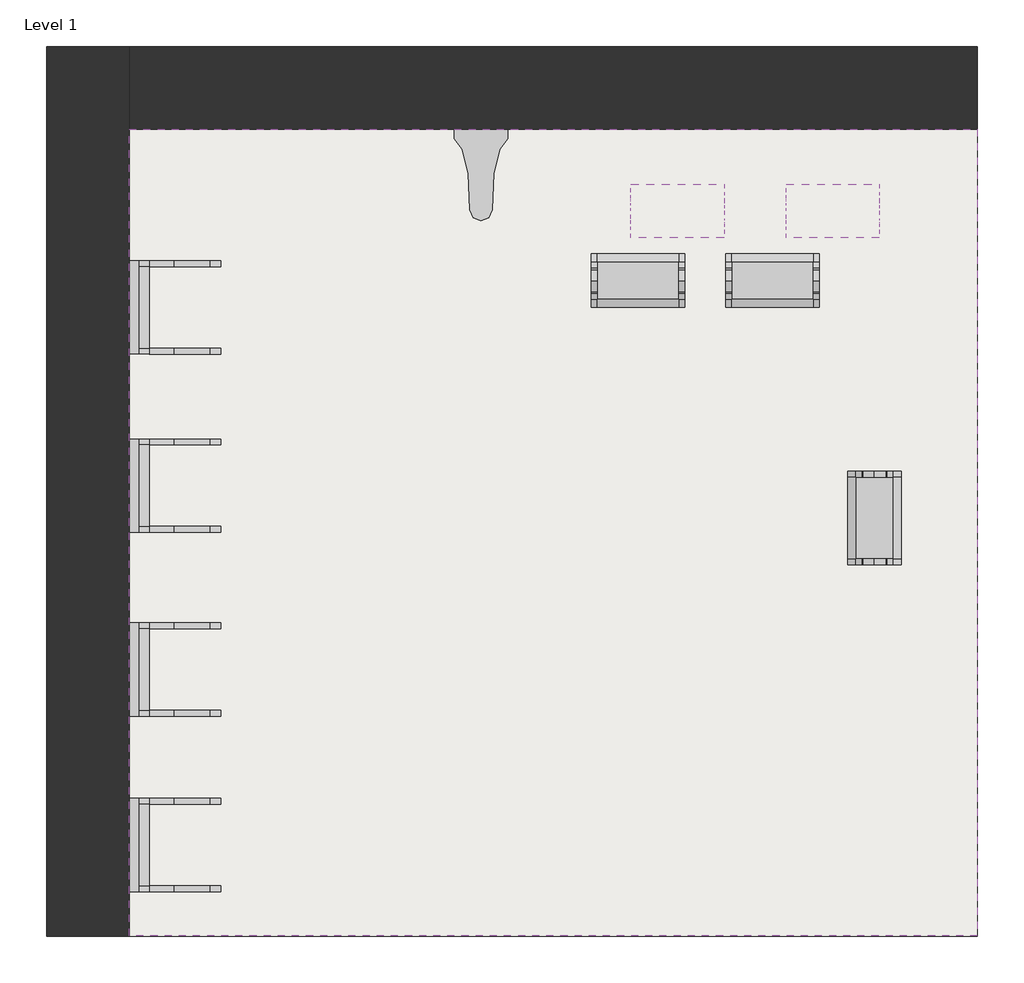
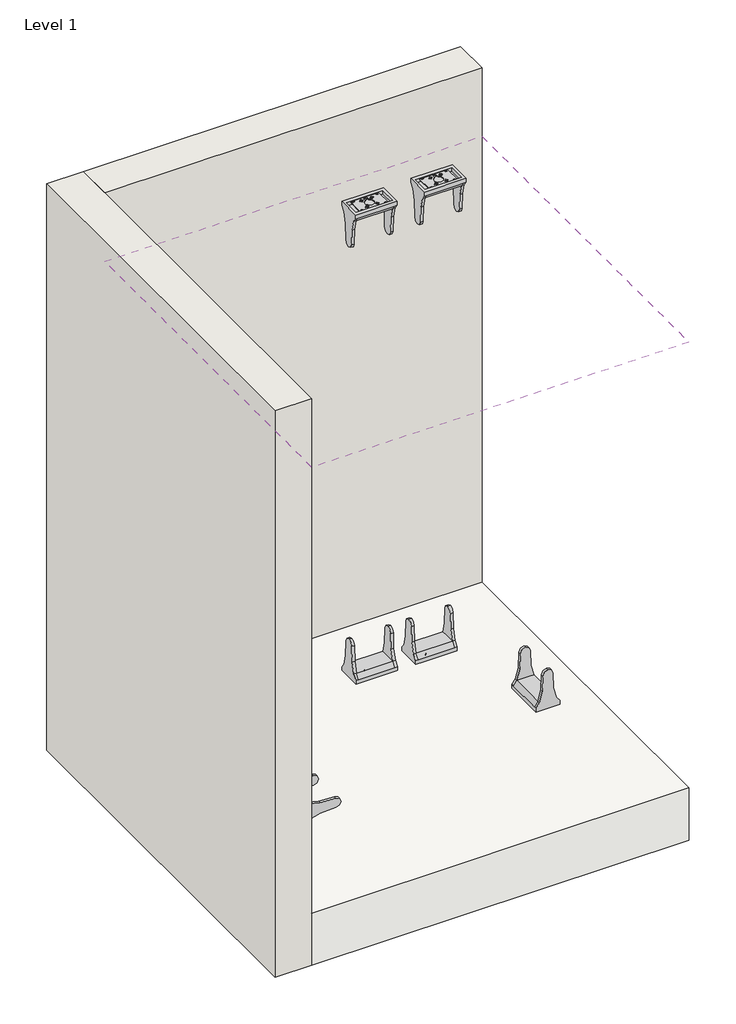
# One storey, incomplete: 10 light fixtures, 2 walls, 1 covering, 1 slab.
"""IFC4 building model written with IfcOpenShell, lengths in millimetres."""

from ifc_helpers import new_model, si_unit, frame, origin, place, context, project, spatial, polyline, outline, extrude, faceted_brep, transform, mapped, element, save
from components import wlp32_based_on_the_plane_f0408ee9, wlp32_based_on_the_plane_fb6c3ec3, wlp32_surface_mount_basic_5069ddbf, wlp32_ceiling_based_78ae828d

model = new_model("IFC4")

# Units and contexts
model_context = context("Model", 3, world=origin())
ifc_project = project(units=[si_unit("LENGTHUNIT", "METRE", prefix="MILLI")], contexts=[model_context])

# Site, building, storey
site = spatial("IfcSite", under=ifc_project)
building = spatial("IfcBuilding", under=site)
storey = spatial("IfcBuildingStorey", under=building, Name="Level 1", Elevation=0.0)

# Covering
placement = place(None, origin())
element("IfcCovering", 1, ObjectType="Ceiling 2", at=placement, inside=storey, context=model_context, shape_type="SweptSolid", body=[
    extrude(outline(polyline([(4291.0676417, 3741.7404022), (4291.0676417, 1760.5404022), (2208.2676417, 1760.5404022), (2208.2676417, 3741.7404022), (4291.0676417, 3741.7404022)])), frame((0.0, 0.0, 2600.0), z_axis=(0.0, 0.0, 1.0), x_axis=(1.0, 0.0, 0.0)), (0.0, 0.0, 1.0), 25.4),
])

# Light fixtures
wlp32_based_on_the_plane_shape = wlp32_based_on_the_plane_f0408ee9(model_context)
element("IfcLightFixture", 2, ObjectType="WLP32_ based on the plane : WLP32-80W-T40", at=placement, inside=storey, context=model_context, shape_type="MappedRepresentation", body=[
    mapped(wlp32_based_on_the_plane_shape, transform((3787.6447291, 3370.3024017, 0.0), x_axis=(-1.0, 0.0, 0.0), y_axis=(0.0, -1.0, 0.0), z_axis=(0.0, 0.0, 1.0))),
])
wlp32_based_on_the_plane_2_shape = wlp32_based_on_the_plane_fb6c3ec3(model_context)
element("IfcLightFixture", 3, ObjectType="WLP32_ based on the plane : WLP32-80W-T40", at=placement, inside=storey, context=model_context, shape_type="MappedRepresentation", body=[
    mapped(wlp32_based_on_the_plane_2_shape, transform((4038.1245796, 2787.2862229, 0.0), x_axis=(0.0, -1.0, 0.0), y_axis=(1.0, 0.0, 0.0), z_axis=(0.0, 0.0, 1.0))),
])
element("IfcLightFixture", 4, ObjectType="WLP32_ based on the plane : WLP32-80W-T40", at=placement, inside=storey, context=model_context, shape_type="MappedRepresentation", body=[
    mapped(wlp32_based_on_the_plane_shape, transform((3457.4447291, 3370.3024017, 0.0), x_axis=(-1.0, 0.0, 0.0), y_axis=(0.0, -1.0, 0.0), z_axis=(0.0, 0.0, 1.0))),
])
element("IfcLightFixture", 5, ObjectType="WLP32_ based on the plane : WLP32-80W-T40", at=placement, inside=storey, context=model_context, shape_type="MappedRepresentation", body=[
    mapped(wlp32_based_on_the_plane_2_shape, transform((3071.8676417, 3741.7404022, 508.0), x_axis=(0.0, 0.0, 1.0), y_axis=(-1.0, 0.0, 0.0), z_axis=(0.0, -1.0, 0.0))),
])
wlp32_surface_mount_basic_shape = wlp32_surface_mount_basic_5069ddbf(model_context)
element("IfcLightFixture", 6, ObjectType="WLP32_SURFACE MOUNT BASIC : WLP32-80W-T40", at=placement, inside=storey, context=model_context, shape_type="MappedRepresentation", body=[
    mapped(wlp32_surface_mount_basic_shape, transform((2174.4683535, 2029.9790862, 508.0), x_axis=(0.0, 1.0000000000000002, 0.0), y_axis=(-1.0000000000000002, 0.0, 0.0), z_axis=(0.0, 0.0, 1.0))),
])
element("IfcLightFixture", 7, ObjectType="WLP32_SURFACE MOUNT BASIC : WLP32-80W-T40", at=placement, inside=storey, context=model_context, shape_type="MappedRepresentation", body=[
    mapped(wlp32_surface_mount_basic_shape, transform((2174.4683535, 2912.6290862, 508.0), x_axis=(0.0, 1.0000000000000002, 0.0), y_axis=(-1.0000000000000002, 0.0, 0.0), z_axis=(0.0, 0.0, 1.0))),
])
element("IfcLightFixture", 8, ObjectType="WLP32_SURFACE MOUNT BASIC : WLP32-80W-T40", at=placement, inside=storey, context=model_context, shape_type="MappedRepresentation", body=[
    mapped(wlp32_surface_mount_basic_shape, transform((2174.4683535, 2461.7790862, 508.0), x_axis=(0.0, 1.0000000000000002, 0.0), y_axis=(-1.0000000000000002, 0.0, 0.0), z_axis=(0.0, 0.0, 1.0))),
])
element("IfcLightFixture", 9, ObjectType="WLP32_SURFACE MOUNT BASIC : WLP32-80W-T40", at=placement, inside=storey, context=model_context, shape_type="MappedRepresentation", body=[
    mapped(wlp32_surface_mount_basic_shape, transform((2174.4683535, 3350.7790862, 508.0), x_axis=(0.0, 1.0000000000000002, 0.0), y_axis=(-1.0000000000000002, 0.0, 0.0), z_axis=(0.0, 0.0, 1.0))),
])
wlp32_ceiling_based_shape = wlp32_ceiling_based_78ae828d(model_context)
element("IfcLightFixture", 10, ObjectType="WLP32_ceiling based : WLP32-80W-T40", at=placement, inside=storey, context=model_context, shape_type="MappedRepresentation", body=[
    mapped(wlp32_ceiling_based_shape, transform((3935.6391074, 3540.9045549, 1895.15), x_axis=(1.0, 0.0, 0.0), y_axis=(0.0, 1.0, 0.0), z_axis=(0.0, 0.0, 1.0))),
])
element("IfcLightFixture", 11, ObjectType="WLP32_ceiling based : WLP32-80W-T40", at=placement, inside=storey, context=model_context, shape_type="MappedRepresentation", body=[
    mapped(wlp32_ceiling_based_shape, transform((3554.6391074, 3540.9045549, 1895.15), x_axis=(1.0, 0.0, 0.0), y_axis=(0.0, 1.0, 0.0), z_axis=(0.0, 0.0, 1.0))),
])

# Slab
element("IfcSlab", 12, ObjectType="Floor 1", at=placement, inside=storey, context=model_context, shape_type="SweptSolid", body=[
    extrude(outline(polyline([(4291.0676417, 3741.7404022), (4291.0676417, 1760.5404022), (2208.2676417, 1760.5404022), (2208.2676417, 3741.7404022), (4291.0676417, 3741.7404022)])), frame((0.0, 0.0, -304.8), z_axis=(0.0, 0.0, 1.0), x_axis=(1.0, 0.0, 0.0)), (0.0, 0.0, 1.0), 304.8),
])

# Walls
element("IfcWall", 13, ObjectType="Wall 1", at=placement, inside=storey, context=model_context, shape_type="Brep", body=[
    faceted_brep([(2005.0676417, 3944.9404022, -304.8), (2005.0676417, 1760.5404022, -304.8), (2005.0676417, 1760.5404022, 3000.0), (2005.0676417, 3944.9404022, 3000.0), (2208.2676417, 3944.9404022, -304.8), (2208.2676417, 3944.9404022, 3000.0), (2208.2676417, 3741.7404022, 3000.0), (2208.2676417, 1760.5404022, 3000.0), (2208.2676417, 1760.5404022, -304.8), (2208.2676417, 3741.7404022, -304.8)], [[[0, 1, 2, 3]], [[4, 5, 6, 7, 8, 9]], [[1, 0, 4, 9, 8]], [[2, 1, 8, 7]], [[3, 2, 7, 6, 5]], [[0, 3, 5, 4]]]),
])
element("IfcWall", 14, ObjectType="Wall 1", at=placement, inside=storey, context=model_context, shape_type="SweptSolid", body=[
    extrude(outline(polyline([(4291.0676417, 3741.7404022), (2208.2676417, 3741.7404022), (2208.2676417, 3944.9404022), (4291.0676417, 3944.9404022), (4291.0676417, 3741.7404022)])), frame((0.0, 0.0, -304.8), z_axis=(0.0, 0.0, 1.0), x_axis=(1.0, 0.0, 0.0)), (0.0, 0.0, 1.0), 3304.8),
])

save(model, "model.ifc")
